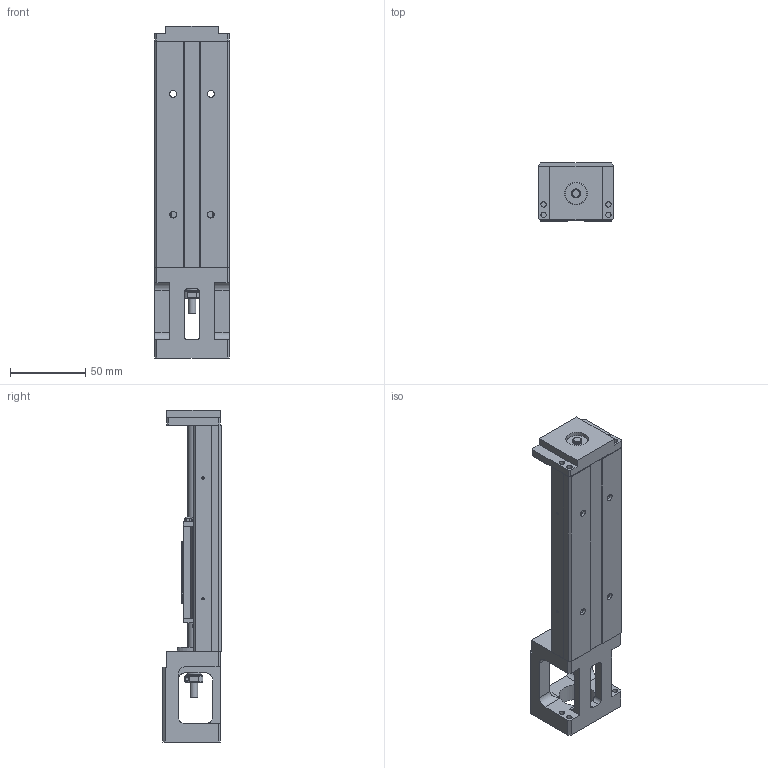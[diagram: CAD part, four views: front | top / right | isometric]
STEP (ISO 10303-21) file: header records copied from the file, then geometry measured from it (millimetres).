
FILE_DESCRIPTION(/* description */ (''),/* implementation_level */ '2;1');
FILE_NAME(/* name */ '26-150.stp',/* time_stamp */ '2016-12-16T14:54:15+08:00',/* author */ (''),/* organization */ (''),/* preprocessor_version */ 'ST-DEVELOPER v11',/* originating_system */ 'SIEMENS UGS NX 6.0',/* authorisation */ '');
FILE_SCHEMA (('AUTOMOTIVE_DESIGN { 1 0 10303 214 1 1 1 1 }'));
Length unit declared in the file: millimetre
Products named in the file (1): model4
Bounding box: 50 x 38.5 x 220 mm (x, y, z)
Volume: 182518.6 mm3; surface area: 65063.7 mm2
Topology: 5 solids, 10 shells, 617 faces, 1607 edges, 1038 vertices
Faces by surface type: plane 335, cylinder 194, cone 57, bspline 20, torus 6, extrusion 4, sphere 1
Full cylindrical faces by diameter (mm): 1.6 x4, 2.42 x6, 2.5 x5, 2.8 x6, 3.2 x4, 3.3 x2, 3.5 x6, 4 x4, 4.5 x4, 5 x7, 5.7 x1, 6 x9, 8 x5, 9 x2, 10 x1, 15 x2, 16.9 x1
Entity records: 27206 total; most frequent: CARTESIAN_POINT 9756, DIRECTION 2915, ORIENTED_EDGE 2882, EDGE_CURVE 1441, AXIS2_PLACEMENT_3D 1028, VERTEX_POINT 995, VECTOR 859, LINE 855
